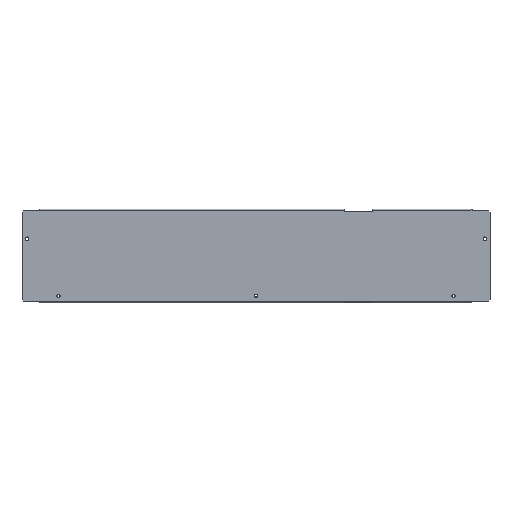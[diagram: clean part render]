
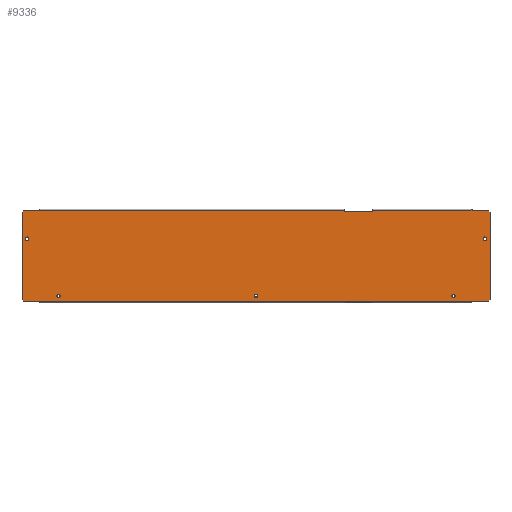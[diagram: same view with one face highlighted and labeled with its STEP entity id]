
A CAD part, top view. The second image highlights one B-rep face of the part: STEP entity #9336.
In plain terms, the highlighted planar face has unit normal (0, 0, 1).
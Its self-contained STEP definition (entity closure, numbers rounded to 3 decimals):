
#7161=CARTESIAN_POINT(' ',(309.75,-63.,0.));
#7162=VERTEX_POINT(' ',#7161);
#7176=CARTESIAN_POINT(' ',(312.5,-63.,0.));
#7181=DIRECTION(' ',(0.,-0.,1.));
#7186=DIRECTION(' ',(-1.,0.,0.));
#7191=AXIS2_PLACEMENT_3D(' ',#7176,#7181,#7186);
#7196=CIRCLE('',#7191,2.75);
#7201=CARTESIAN_POINT(' ',(315.25,-63.,0.));
#7202=VERTEX_POINT(' ',#7201);
#7206=EDGE_CURVE(' ',#7162,#7202,#7196,.T.);
#8311=CARTESIAN_POINT(' ',(312.5,-63.,0.));
#8316=DIRECTION(' ',(0.,0.,1.));
#8321=DIRECTION(' ',(1.,0.,0.));
#8326=AXIS2_PLACEMENT_3D(' ',#8311,#8316,#8321);
#8331=CIRCLE('',#8326,2.75);
#8336=EDGE_CURVE(' ',#7202,#7162,#8331,.T.);
#8361=DIRECTION(' ',(-0.,0.,1.));
#8366=CARTESIAN_POINT(' ',(-370.5,-71.5,0.));
#8371=DIRECTION(' ',(1.,0.,0.));
#8376=AXIS2_PLACEMENT_3D(' ',#8366,#8361,#8371);
#8381=PLANE('NONE',#8376);
#8386=CARTESIAN_POINT(' ',(184.5,70.5,0.));
#8391=DIRECTION(' ',(0.,1.,0.));
#8396=VECTOR(' ',#8391,1.);
#8401=LINE('',#8386,#8396);
#8406=CARTESIAN_POINT(' ',(184.5,70.5,0.));
#8407=VERTEX_POINT(' ',#8406);
#8411=CARTESIAN_POINT(' ',(184.5,72.4,0.));
#8412=VERTEX_POINT(' ',#8411);
#8416=EDGE_CURVE(' ',#8407,#8412,#8401,.T.);
#8421=ORIENTED_EDGE(' ',*,*,#8416,.F.);
#8426=CARTESIAN_POINT(' ',(139.5,70.5,0.));
#8431=DIRECTION(' ',(1.,0.,0.));
#8436=VECTOR(' ',#8431,1.);
#8441=LINE('',#8426,#8436);
#8446=CARTESIAN_POINT(' ',(139.5,70.5,0.));
#8447=VERTEX_POINT(' ',#8446);
#8451=EDGE_CURVE(' ',#8447,#8407,#8441,.T.);
#8456=ORIENTED_EDGE(' ',*,*,#8451,.F.);
#8461=CARTESIAN_POINT(' ',(139.5,72.4,0.));
#8466=DIRECTION(' ',(0.,-1.,0.));
#8471=VECTOR(' ',#8466,1.);
#8476=LINE('',#8461,#8471);
#8481=CARTESIAN_POINT(' ',(139.5,72.4,0.));
#8482=VERTEX_POINT(' ',#8481);
#8486=EDGE_CURVE(' ',#8482,#8447,#8476,.T.);
#8491=ORIENTED_EDGE(' ',*,*,#8486,.F.);
#8496=CARTESIAN_POINT(' ',(139.5,72.4,0.));
#8501=DIRECTION(' ',(-1.,0.,0.));
#8506=VECTOR(' ',#8501,1.);
#8511=LINE('',#8496,#8506);
#8516=CARTESIAN_POINT(' ',(-342.,72.4,0.));
#8517=VERTEX_POINT(' ',#8516);
#8521=EDGE_CURVE(' ',#8482,#8517,#8511,.T.);
#8526=ORIENTED_EDGE(' ',*,*,#8521,.T.);
#8531=CARTESIAN_POINT(' ',(-342.,72.4,0.));
#8536=DIRECTION(' ',(0.,-1.,0.));
#8541=VECTOR(' ',#8536,1.);
#8546=LINE('',#8531,#8541);
#8551=CARTESIAN_POINT(' ',(-342.,71.5,0.));
#8552=VERTEX_POINT(' ',#8551);
#8556=EDGE_CURVE(' ',#8517,#8552,#8546,.T.);
#8561=ORIENTED_EDGE(' ',*,*,#8556,.T.);
#8566=CARTESIAN_POINT(' ',(-342.,71.5,0.));
#8571=DIRECTION(' ',(-1.,0.,0.));
#8576=VECTOR(' ',#8571,1.);
#8581=LINE('',#8566,#8576);
#8586=CARTESIAN_POINT(' ',(-368.5,71.5,0.));
#8587=VERTEX_POINT(' ',#8586);
#8591=EDGE_CURVE(' ',#8552,#8587,#8581,.T.);
#8596=ORIENTED_EDGE(' ',*,*,#8591,.T.);
#8601=CARTESIAN_POINT(' ',(-368.5,71.5,0.));
#8606=DIRECTION(' ',(-0.707,-0.707,0.));
#8611=VECTOR(' ',#8606,1.);
#8616=LINE('',#8601,#8611);
#8621=CARTESIAN_POINT(' ',(-370.5,69.5,0.));
#8622=VERTEX_POINT(' ',#8621);
#8626=EDGE_CURVE(' ',#8587,#8622,#8616,.T.);
#8631=ORIENTED_EDGE(' ',*,*,#8626,.T.);
#8636=CARTESIAN_POINT(' ',(-370.5,69.5,0.));
#8641=DIRECTION(' ',(0.,-1.,0.));
#8646=VECTOR(' ',#8641,1.);
#8651=LINE('',#8636,#8646);
#8656=CARTESIAN_POINT(' ',(-370.5,-69.5,0.));
#8657=VERTEX_POINT(' ',#8656);
#8661=EDGE_CURVE(' ',#8622,#8657,#8651,.T.);
#8666=ORIENTED_EDGE(' ',*,*,#8661,.T.);
#8671=CARTESIAN_POINT(' ',(-370.5,-69.5,0.));
#8676=DIRECTION(' ',(0.707,-0.707,0.));
#8681=VECTOR(' ',#8676,1.);
#8686=LINE('',#8671,#8681);
#8691=CARTESIAN_POINT(' ',(-368.5,-71.5,0.));
#8692=VERTEX_POINT(' ',#8691);
#8696=EDGE_CURVE(' ',#8657,#8692,#8686,.T.);
#8701=ORIENTED_EDGE(' ',*,*,#8696,.T.);
#8706=CARTESIAN_POINT(' ',(-368.5,-71.5,0.));
#8711=DIRECTION(' ',(1.,0.,0.));
#8716=VECTOR(' ',#8711,1.);
#8721=LINE('',#8706,#8716);
#8726=CARTESIAN_POINT(' ',(368.5,-71.5,0.));
#8727=VERTEX_POINT(' ',#8726);
#8731=EDGE_CURVE(' ',#8692,#8727,#8721,.T.);
#8736=ORIENTED_EDGE(' ',*,*,#8731,.T.);
#8741=CARTESIAN_POINT(' ',(368.5,-71.5,0.));
#8746=DIRECTION(' ',(0.707,0.707,0.));
#8751=VECTOR(' ',#8746,1.);
#8756=LINE('',#8741,#8751);
#8761=CARTESIAN_POINT(' ',(370.5,-69.5,0.));
#8762=VERTEX_POINT(' ',#8761);
#8766=EDGE_CURVE(' ',#8727,#8762,#8756,.T.);
#8771=ORIENTED_EDGE(' ',*,*,#8766,.T.);
#8776=CARTESIAN_POINT(' ',(370.5,-69.5,0.));
#8781=DIRECTION(' ',(0.,1.,0.));
#8786=VECTOR(' ',#8781,1.);
#8791=LINE('',#8776,#8786);
#8796=CARTESIAN_POINT(' ',(370.5,69.5,0.));
#8797=VERTEX_POINT(' ',#8796);
#8801=EDGE_CURVE(' ',#8762,#8797,#8791,.T.);
#8806=ORIENTED_EDGE(' ',*,*,#8801,.T.);
#8811=CARTESIAN_POINT(' ',(370.5,69.5,0.));
#8816=DIRECTION(' ',(-0.707,0.707,0.));
#8821=VECTOR(' ',#8816,1.);
#8826=LINE('',#8811,#8821);
#8831=CARTESIAN_POINT(' ',(368.5,71.5,0.));
#8832=VERTEX_POINT(' ',#8831);
#8836=EDGE_CURVE(' ',#8797,#8832,#8826,.T.);
#8841=ORIENTED_EDGE(' ',*,*,#8836,.T.);
#8846=CARTESIAN_POINT(' ',(368.5,71.5,0.));
#8851=DIRECTION(' ',(-1.,0.,0.));
#8856=VECTOR(' ',#8851,1.);
#8861=LINE('',#8846,#8856);
#8866=CARTESIAN_POINT(' ',(342.,71.5,0.));
#8867=VERTEX_POINT(' ',#8866);
#8871=EDGE_CURVE(' ',#8832,#8867,#8861,.T.);
#8876=ORIENTED_EDGE(' ',*,*,#8871,.T.);
#8881=CARTESIAN_POINT(' ',(342.,72.4,0.));
#8886=DIRECTION(' ',(0.,-1.,0.));
#8891=VECTOR(' ',#8886,1.);
#8896=LINE('',#8881,#8891);
#8901=CARTESIAN_POINT(' ',(342.,72.4,0.));
#8902=VERTEX_POINT(' ',#8901);
#8906=EDGE_CURVE(' ',#8902,#8867,#8896,.T.);
#8911=ORIENTED_EDGE(' ',*,*,#8906,.F.);
#8916=CARTESIAN_POINT(' ',(342.,72.4,0.));
#8921=DIRECTION(' ',(-1.,0.,0.));
#8926=VECTOR(' ',#8921,1.);
#8931=LINE('',#8916,#8926);
#8936=EDGE_CURVE(' ',#8902,#8412,#8931,.T.);
#8941=ORIENTED_EDGE(' ',*,*,#8936,.T.);
#8946=EDGE_LOOP(' ',(#8421,#8456,#8491,#8526,#8561,#8596,#8631,#8666,#8701,#8736,#8771,#8806,#8841,#8876,#8911,#8941));
#8951=FACE_OUTER_BOUND(' ',#8946,.T.);
#8956=ORIENTED_EDGE(' ',*,*,#8336,.F.);
#8961=ORIENTED_EDGE(' ',*,*,#7206,.F.);
#8966=EDGE_LOOP(' ',(#8956,#8961));
#8971=FACE_BOUND(' ',#8966,.T.);
#8976=CARTESIAN_POINT(' ',(0.,-63.,0.));
#8981=DIRECTION(' ',(0.,0.,1.));
#8986=DIRECTION(' ',(1.,0.,0.));
#8991=AXIS2_PLACEMENT_3D(' ',#8976,#8981,#8986);
#8996=CIRCLE('',#8991,2.75);
#9001=CARTESIAN_POINT(' ',(2.75,-63.,0.));
#9002=VERTEX_POINT(' ',#9001);
#9006=CARTESIAN_POINT(' ',(-2.75,-63.,0.));
#9007=VERTEX_POINT(' ',#9006);
#9011=EDGE_CURVE(' ',#9002,#9007,#8996,.T.);
#9016=ORIENTED_EDGE(' ',*,*,#9011,.F.);
#9021=CARTESIAN_POINT(' ',(0.,-63.,0.));
#9026=DIRECTION(' ',(0.,-0.,1.));
#9031=DIRECTION(' ',(-1.,0.,0.));
#9036=AXIS2_PLACEMENT_3D(' ',#9021,#9026,#9031);
#9041=CIRCLE('',#9036,2.75);
#9046=EDGE_CURVE(' ',#9007,#9002,#9041,.T.);
#9051=ORIENTED_EDGE(' ',*,*,#9046,.F.);
#9056=EDGE_LOOP(' ',(#9016,#9051));
#9061=FACE_BOUND(' ',#9056,.T.);
#9066=CARTESIAN_POINT(' ',(-312.5,-63.,0.));
#9071=DIRECTION(' ',(0.,0.,1.));
#9076=DIRECTION(' ',(1.,0.,0.));
#9081=AXIS2_PLACEMENT_3D(' ',#9066,#9071,#9076);
#9086=CIRCLE('',#9081,2.75);
#9091=CARTESIAN_POINT(' ',(-309.75,-63.,0.));
#9092=VERTEX_POINT(' ',#9091);
#9096=CARTESIAN_POINT(' ',(-315.25,-63.,0.));
#9097=VERTEX_POINT(' ',#9096);
#9101=EDGE_CURVE(' ',#9092,#9097,#9086,.T.);
#9106=ORIENTED_EDGE(' ',*,*,#9101,.F.);
#9111=CARTESIAN_POINT(' ',(-312.5,-63.,0.));
#9116=DIRECTION(' ',(0.,-0.,1.));
#9121=DIRECTION(' ',(-1.,0.,0.));
#9126=AXIS2_PLACEMENT_3D(' ',#9111,#9116,#9121);
#9131=CIRCLE('',#9126,2.75);
#9136=EDGE_CURVE(' ',#9097,#9092,#9131,.T.);
#9141=ORIENTED_EDGE(' ',*,*,#9136,.F.);
#9146=EDGE_LOOP(' ',(#9106,#9141));
#9151=FACE_BOUND(' ',#9146,.T.);
#9156=CARTESIAN_POINT(' ',(362.5,27.5,0.));
#9161=DIRECTION(' ',(0.,0.,1.));
#9166=DIRECTION(' ',(1.,0.,0.));
#9171=AXIS2_PLACEMENT_3D(' ',#9156,#9161,#9166);
#9176=CIRCLE('',#9171,2.75);
#9181=CARTESIAN_POINT(' ',(365.25,27.5,0.));
#9182=VERTEX_POINT(' ',#9181);
#9186=CARTESIAN_POINT(' ',(359.75,27.5,0.));
#9187=VERTEX_POINT(' ',#9186);
#9191=EDGE_CURVE(' ',#9182,#9187,#9176,.T.);
#9196=ORIENTED_EDGE(' ',*,*,#9191,.F.);
#9201=CARTESIAN_POINT(' ',(362.5,27.5,0.));
#9206=DIRECTION(' ',(0.,-0.,1.));
#9211=DIRECTION(' ',(-1.,0.,0.));
#9216=AXIS2_PLACEMENT_3D(' ',#9201,#9206,#9211);
#9221=CIRCLE('',#9216,2.75);
#9226=EDGE_CURVE(' ',#9187,#9182,#9221,.T.);
#9231=ORIENTED_EDGE(' ',*,*,#9226,.F.);
#9236=EDGE_LOOP(' ',(#9196,#9231));
#9241=FACE_BOUND(' ',#9236,.T.);
#9246=CARTESIAN_POINT(' ',(-362.5,27.5,0.));
#9251=DIRECTION(' ',(0.,0.,1.));
#9256=DIRECTION(' ',(1.,0.,0.));
#9261=AXIS2_PLACEMENT_3D(' ',#9246,#9251,#9256);
#9266=CIRCLE('',#9261,2.75);
#9271=CARTESIAN_POINT(' ',(-359.75,27.5,0.));
#9272=VERTEX_POINT(' ',#9271);
#9276=CARTESIAN_POINT(' ',(-365.25,27.5,0.));
#9277=VERTEX_POINT(' ',#9276);
#9281=EDGE_CURVE(' ',#9272,#9277,#9266,.T.);
#9286=ORIENTED_EDGE(' ',*,*,#9281,.F.);
#9291=CARTESIAN_POINT(' ',(-362.5,27.5,0.));
#9296=DIRECTION(' ',(0.,-0.,1.));
#9301=DIRECTION(' ',(-1.,0.,0.));
#9306=AXIS2_PLACEMENT_3D(' ',#9291,#9296,#9301);
#9311=CIRCLE('',#9306,2.75);
#9316=EDGE_CURVE(' ',#9277,#9272,#9311,.T.);
#9321=ORIENTED_EDGE(' ',*,*,#9316,.F.);
#9326=EDGE_LOOP(' ',(#9286,#9321));
#9331=FACE_BOUND(' ',#9326,.T.);
#9336=ADVANCED_FACE('NONE',(#8951,#8971,#9061,#9151,#9241,#9331),#8381,.T.);
